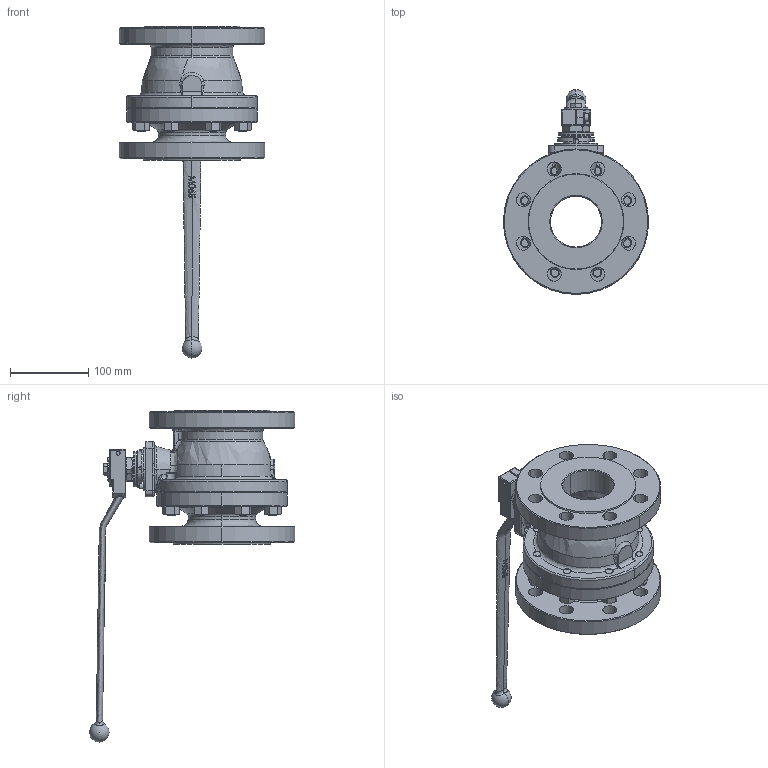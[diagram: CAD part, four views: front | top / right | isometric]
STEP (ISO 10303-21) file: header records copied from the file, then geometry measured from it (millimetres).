
FILE_DESCRIPTION (( 'STEP AP214' ), '1' );
FILE_NAME ('0540065 con maneta.STEP', '2016-10-07T19:09:39', ( '' ), ( '' ), 'SwSTEP 2.0', 'SolidWorks 2016', '' );
FILE_SCHEMA (( 'AUTOMOTIVE_DESIGN' ));
Length unit declared in the file: millimetre
Products named in the file (19): DIN 934 - M12_DIN 934 - M12; 00650930; P65G (32x22x5)_Comprimida; DIN 912 M6 x 20 --- 20C_DIN 912 M6 x 20 --- 20C; 0540065C; 0540065 con maneta; DIN 6325 - Ø6x18; 5165-07; DIN 2093 - B45; DIN 933 - M8 x 16_ISO 4017 - M8 x 16-C; 5265_46; M065CHST; SM12451515; JT65FV (32x22x2); 5165-10-1; 0540065L; 5165_17; EPI65Q; 200065_41
Assembly tree (35 placements, depth 2):
  0540065 con maneta
    0540065C
    0540065L
    EPI65Q
    M065CHST
    5165_17
    DIN 933 - M8 x 16_ISO 4017 - M8 x 16-C
    SM12451515  x8
    DIN 934 - M12_DIN 934 - M12  x8
    DIN 912 M6 x 20 --- 20C_DIN 912 M6 x 20 --- 20C
    P65G (32x22x5)_Comprimida  x2
    5165-10-1
    JT65FV (32x22x2)
    00650930
    DIN 2093 - B45  x2
    200065_41
    5265_46
    5165-07
    DIN 6325 - Ø6x18  x2
Bounding box: 185 x 261.38 x 423 mm (x, y, z)
Volume: 2022851.3 mm3; surface area: 377526.9 mm2
Topology: 35 solids, 35 shells, 1071 faces, 2548 edges, 1536 vertices
Faces by surface type: cylinder 327, plane 273, cone 257, bspline 168, sphere 24, torus 22
Entity records: 49553 total; most frequent: CARTESIAN_POINT 30628, ORIENTED_EDGE 3890, DIRECTION 3476, EDGE_CURVE 1945, AXIS2_PLACEMENT_3D 1430, VERTEX_POINT 1201, EDGE_LOOP 916, FACE_OUTER_BOUND 797
